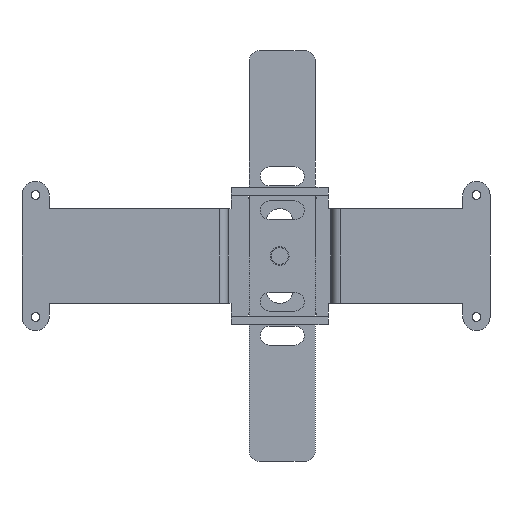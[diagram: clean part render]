
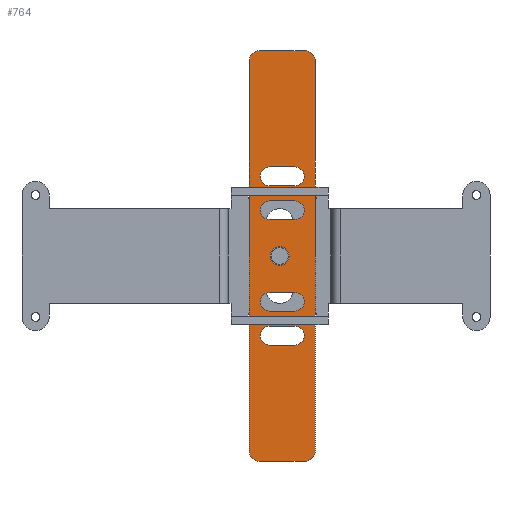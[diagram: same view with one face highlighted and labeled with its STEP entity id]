
A CAD part, front view. The second image highlights one B-rep face of the part: STEP entity #764.
In plain terms, the highlighted planar face has unit normal (0, -1, 0) as drawn and (0, 0, 1) by its records, which use the part's own axes.
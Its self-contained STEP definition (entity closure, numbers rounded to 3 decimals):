
#587=FACE_BOUND('',#1093,.T.);
#588=FACE_BOUND('',#1094,.T.);
#589=FACE_BOUND('',#1095,.T.);
#590=FACE_BOUND('',#1096,.T.);
#591=FACE_BOUND('',#1097,.T.);
#592=FACE_BOUND('',#1098,.T.);
#644=PLANE('',#3269);
#764=ADVANCED_FACE('',(#587,#588,#589,#590,#591,#592),#644,.T.);
#1093=EDGE_LOOP('',(#1843,#1844,#1845,#1846,#1847,#1848,#1849,#1850));
#1094=EDGE_LOOP('',(#1851,#1852));
#1095=EDGE_LOOP('',(#1853,#1854,#1855,#1856));
#1096=EDGE_LOOP('',(#1857,#1858,#1859,#1860));
#1097=EDGE_LOOP('',(#1861,#1862,#1863,#1864));
#1098=EDGE_LOOP('',(#1865,#1866,#1867,#1868));
#1231=CIRCLE('',#3253,2.75);
#1232=CIRCLE('',#3255,2.75);
#1233=CIRCLE('',#3257,3.);
#1234=CIRCLE('',#3258,3.);
#1235=CIRCLE('',#3259,3.);
#1236=CIRCLE('',#3260,3.);
#1237=CIRCLE('',#3261,2.75);
#1238=CIRCLE('',#3262,2.75);
#1239=CIRCLE('',#3263,2.75);
#1240=CIRCLE('',#3264,2.75);
#1241=CIRCLE('',#3265,2.75);
#1242=CIRCLE('',#3266,2.75);
#1243=CIRCLE('',#3267,2.75);
#1244=CIRCLE('',#3268,2.75);
#1843=ORIENTED_EDGE('',*,*,#2515,.T.);
#1844=ORIENTED_EDGE('',*,*,#2516,.T.);
#1845=ORIENTED_EDGE('',*,*,#2517,.T.);
#1846=ORIENTED_EDGE('',*,*,#2518,.T.);
#1847=ORIENTED_EDGE('',*,*,#2519,.T.);
#1848=ORIENTED_EDGE('',*,*,#2520,.T.);
#1849=ORIENTED_EDGE('',*,*,#2521,.T.);
#1850=ORIENTED_EDGE('',*,*,#2522,.T.);
#1851=ORIENTED_EDGE('',*,*,#2514,.T.);
#1852=ORIENTED_EDGE('',*,*,#2512,.T.);
#1853=ORIENTED_EDGE('',*,*,#2523,.T.);
#1854=ORIENTED_EDGE('',*,*,#2524,.T.);
#1855=ORIENTED_EDGE('',*,*,#2525,.T.);
#1856=ORIENTED_EDGE('',*,*,#2526,.T.);
#1857=ORIENTED_EDGE('',*,*,#2527,.T.);
#1858=ORIENTED_EDGE('',*,*,#2528,.T.);
#1859=ORIENTED_EDGE('',*,*,#2529,.T.);
#1860=ORIENTED_EDGE('',*,*,#2530,.T.);
#1861=ORIENTED_EDGE('',*,*,#2531,.T.);
#1862=ORIENTED_EDGE('',*,*,#2532,.T.);
#1863=ORIENTED_EDGE('',*,*,#2533,.T.);
#1864=ORIENTED_EDGE('',*,*,#2534,.T.);
#1865=ORIENTED_EDGE('',*,*,#2535,.T.);
#1866=ORIENTED_EDGE('',*,*,#2536,.T.);
#1867=ORIENTED_EDGE('',*,*,#2537,.T.);
#1868=ORIENTED_EDGE('',*,*,#2538,.T.);
#2177=VERTEX_POINT('',#4681);
#2178=VERTEX_POINT('',#4683);
#2179=VERTEX_POINT('',#4689);
#2180=VERTEX_POINT('',#4690);
#2181=VERTEX_POINT('',#4692);
#2182=VERTEX_POINT('',#4694);
#2183=VERTEX_POINT('',#4696);
#2184=VERTEX_POINT('',#4698);
#2185=VERTEX_POINT('',#4700);
#2186=VERTEX_POINT('',#4702);
#2187=VERTEX_POINT('',#4705);
#2188=VERTEX_POINT('',#4706);
#2189=VERTEX_POINT('',#4708);
#2190=VERTEX_POINT('',#4710);
#2191=VERTEX_POINT('',#4713);
#2192=VERTEX_POINT('',#4714);
#2193=VERTEX_POINT('',#4716);
#2194=VERTEX_POINT('',#4718);
#2195=VERTEX_POINT('',#4721);
#2196=VERTEX_POINT('',#4722);
#2197=VERTEX_POINT('',#4724);
#2198=VERTEX_POINT('',#4726);
#2199=VERTEX_POINT('',#4729);
#2200=VERTEX_POINT('',#4730);
#2201=VERTEX_POINT('',#4732);
#2202=VERTEX_POINT('',#4734);
#2512=EDGE_CURVE('',#2178,#2177,#1231,.T.);
#2514=EDGE_CURVE('',#2177,#2178,#1232,.T.);
#2515=EDGE_CURVE('',#2179,#2180,#2765,.T.);
#2516=EDGE_CURVE('',#2180,#2181,#1233,.T.);
#2517=EDGE_CURVE('',#2181,#2182,#2766,.T.);
#2518=EDGE_CURVE('',#2182,#2183,#1234,.T.);
#2519=EDGE_CURVE('',#2183,#2184,#2767,.T.);
#2520=EDGE_CURVE('',#2184,#2185,#1235,.T.);
#2521=EDGE_CURVE('',#2185,#2186,#2768,.T.);
#2522=EDGE_CURVE('',#2186,#2179,#1236,.T.);
#2523=EDGE_CURVE('',#2187,#2188,#1237,.T.);
#2524=EDGE_CURVE('',#2188,#2189,#2769,.T.);
#2525=EDGE_CURVE('',#2189,#2190,#1238,.T.);
#2526=EDGE_CURVE('',#2190,#2187,#2770,.T.);
#2527=EDGE_CURVE('',#2191,#2192,#1239,.T.);
#2528=EDGE_CURVE('',#2192,#2193,#2771,.T.);
#2529=EDGE_CURVE('',#2193,#2194,#1240,.T.);
#2530=EDGE_CURVE('',#2194,#2191,#2772,.T.);
#2531=EDGE_CURVE('',#2195,#2196,#1241,.T.);
#2532=EDGE_CURVE('',#2196,#2197,#2773,.T.);
#2533=EDGE_CURVE('',#2197,#2198,#1242,.T.);
#2534=EDGE_CURVE('',#2198,#2195,#2774,.T.);
#2535=EDGE_CURVE('',#2199,#2200,#2775,.T.);
#2536=EDGE_CURVE('',#2200,#2201,#1243,.T.);
#2537=EDGE_CURVE('',#2201,#2202,#2776,.T.);
#2538=EDGE_CURVE('',#2202,#2199,#1244,.T.);
#2765=LINE('',#4688,#3003);
#2766=LINE('',#4693,#3004);
#2767=LINE('',#4697,#3005);
#2768=LINE('',#4701,#3006);
#2769=LINE('',#4707,#3007);
#2770=LINE('',#4711,#3008);
#2771=LINE('',#4715,#3009);
#2772=LINE('',#4719,#3010);
#2773=LINE('',#4723,#3011);
#2774=LINE('',#4727,#3012);
#2775=LINE('',#4728,#3013);
#2776=LINE('',#4733,#3014);
#3003=VECTOR('',#3936,1.);
#3004=VECTOR('',#3939,1.);
#3005=VECTOR('',#3942,1.);
#3006=VECTOR('',#3945,1.);
#3007=VECTOR('',#3950,1.);
#3008=VECTOR('',#3953,1.);
#3009=VECTOR('',#3956,1.);
#3010=VECTOR('',#3959,1.);
#3011=VECTOR('',#3962,1.);
#3012=VECTOR('',#3965,1.);
#3013=VECTOR('',#3966,1.);
#3014=VECTOR('',#3969,1.);
#3253=AXIS2_PLACEMENT_3D('',#4682,#3927,#3928);
#3255=AXIS2_PLACEMENT_3D('',#4686,#3932,#3933);
#3257=AXIS2_PLACEMENT_3D('',#4691,#3937,#3938);
#3258=AXIS2_PLACEMENT_3D('',#4695,#3940,#3941);
#3259=AXIS2_PLACEMENT_3D('',#4699,#3943,#3944);
#3260=AXIS2_PLACEMENT_3D('',#4703,#3946,#3947);
#3261=AXIS2_PLACEMENT_3D('',#4704,#3948,#3949);
#3262=AXIS2_PLACEMENT_3D('',#4709,#3951,#3952);
#3263=AXIS2_PLACEMENT_3D('',#4712,#3954,#3955);
#3264=AXIS2_PLACEMENT_3D('',#4717,#3957,#3958);
#3265=AXIS2_PLACEMENT_3D('',#4720,#3960,#3961);
#3266=AXIS2_PLACEMENT_3D('',#4725,#3963,#3964);
#3267=AXIS2_PLACEMENT_3D('',#4731,#3967,#3968);
#3268=AXIS2_PLACEMENT_3D('',#4735,#3970,#3971);
#3269=AXIS2_PLACEMENT_3D('',#4736,#3972,#3973);
#3927=DIRECTION('',(0.,0.,-1.));
#3928=DIRECTION('',(1.,0.,0.));
#3932=DIRECTION('',(0.,0.,-1.));
#3933=DIRECTION('',(-1.,0.,0.));
#3936=DIRECTION('',(0.,1.,0.));
#3937=DIRECTION('',(0.,0.,1.));
#3938=DIRECTION('',(1.,0.,0.));
#3939=DIRECTION('',(-1.,0.,0.));
#3940=DIRECTION('',(0.,0.,1.));
#3941=DIRECTION('',(0.,1.,0.));
#3942=DIRECTION('',(0.,-1.,0.));
#3943=DIRECTION('',(0.,0.,1.));
#3944=DIRECTION('',(-1.,0.,0.));
#3945=DIRECTION('',(1.,0.,0.));
#3946=DIRECTION('',(0.,0.,1.));
#3947=DIRECTION('',(0.,-1.,0.));
#3948=DIRECTION('',(0.,0.,-1.));
#3949=DIRECTION('',(0.,1.,0.));
#3950=DIRECTION('',(-1.,0.,0.));
#3951=DIRECTION('',(0.,0.,-1.));
#3952=DIRECTION('',(0.,-1.,0.));
#3953=DIRECTION('',(1.,0.,0.));
#3954=DIRECTION('',(0.,0.,-1.));
#3955=DIRECTION('',(0.,1.,0.));
#3956=DIRECTION('',(-1.,0.,0.));
#3957=DIRECTION('',(0.,0.,-1.));
#3958=DIRECTION('',(0.,-1.,0.));
#3959=DIRECTION('',(1.,0.,0.));
#3960=DIRECTION('',(0.,0.,-1.));
#3961=DIRECTION('',(0.,1.,0.));
#3962=DIRECTION('',(-1.,0.,0.));
#3963=DIRECTION('',(0.,0.,-1.));
#3964=DIRECTION('',(0.,-1.,0.));
#3965=DIRECTION('',(1.,0.,0.));
#3966=DIRECTION('',(1.,0.,0.));
#3967=DIRECTION('',(0.,0.,-1.));
#3968=DIRECTION('',(0.,1.,0.));
#3969=DIRECTION('',(-1.,0.,0.));
#3970=DIRECTION('',(0.,0.,-1.));
#3971=DIRECTION('',(0.,-1.,0.));
#3972=DIRECTION('',(0.,0.,1.));
#3973=DIRECTION('',(-1.,0.,0.));
#4681=CARTESIAN_POINT('',(6.25,60.5,2.3));
#4682=CARTESIAN_POINT('',(9.,60.5,2.3));
#4683=CARTESIAN_POINT('',(11.75,60.5,2.3));
#4686=CARTESIAN_POINT('',(9.,60.5,2.3));
#4688=CARTESIAN_POINT('',(19.5,3.,2.3));
#4689=CARTESIAN_POINT('',(19.5,3.,2.3));
#4690=CARTESIAN_POINT('',(19.5,118.,2.3));
#4691=CARTESIAN_POINT('',(16.5,118.,2.3));
#4692=CARTESIAN_POINT('',(16.5,121.,2.3));
#4693=CARTESIAN_POINT('',(15.,121.,2.3));
#4694=CARTESIAN_POINT('',(3.,121.,2.3));
#4695=CARTESIAN_POINT('',(3.,118.,2.3));
#4696=CARTESIAN_POINT('',(0.,118.,2.3));
#4697=CARTESIAN_POINT('',(0.,118.,2.3));
#4698=CARTESIAN_POINT('',(0.,3.,2.3));
#4699=CARTESIAN_POINT('',(3.,3.,2.3));
#4700=CARTESIAN_POINT('',(3.,0.,2.3));
#4701=CARTESIAN_POINT('',(3.,0.,2.3));
#4702=CARTESIAN_POINT('',(16.5,0.,2.3));
#4703=CARTESIAN_POINT('',(16.5,3.,2.3));
#4704=CARTESIAN_POINT('',(13.5,74.,2.3));
#4705=CARTESIAN_POINT('',(13.5,76.75,2.3));
#4706=CARTESIAN_POINT('',(13.5,71.25,2.3));
#4707=CARTESIAN_POINT('',(12.,71.25,2.3));
#4708=CARTESIAN_POINT('',(6.,71.25,2.3));
#4709=CARTESIAN_POINT('',(6.,74.,2.3));
#4710=CARTESIAN_POINT('',(6.,76.75,2.3));
#4711=CARTESIAN_POINT('',(6.,76.75,2.3));
#4712=CARTESIAN_POINT('',(13.5,47.,2.3));
#4713=CARTESIAN_POINT('',(13.5,49.75,2.3));
#4714=CARTESIAN_POINT('',(13.5,44.25,2.3));
#4715=CARTESIAN_POINT('',(12.,44.25,2.3));
#4716=CARTESIAN_POINT('',(6.,44.25,2.3));
#4717=CARTESIAN_POINT('',(6.,47.,2.3));
#4718=CARTESIAN_POINT('',(6.,49.75,2.3));
#4719=CARTESIAN_POINT('',(6.,49.75,2.3));
#4720=CARTESIAN_POINT('',(13.5,37.,2.3));
#4721=CARTESIAN_POINT('',(13.5,39.75,2.3));
#4722=CARTESIAN_POINT('',(13.5,34.25,2.3));
#4723=CARTESIAN_POINT('',(12.,34.25,2.3));
#4724=CARTESIAN_POINT('',(6.,34.25,2.3));
#4725=CARTESIAN_POINT('',(6.,37.,2.3));
#4726=CARTESIAN_POINT('',(6.,39.75,2.3));
#4727=CARTESIAN_POINT('',(6.,39.75,2.3));
#4728=CARTESIAN_POINT('',(6.,86.75,2.3));
#4729=CARTESIAN_POINT('',(6.,86.75,2.3));
#4730=CARTESIAN_POINT('',(13.5,86.75,2.3));
#4731=CARTESIAN_POINT('',(13.5,84.,2.3));
#4732=CARTESIAN_POINT('',(13.5,81.25,2.3));
#4733=CARTESIAN_POINT('',(12.,81.25,2.3));
#4734=CARTESIAN_POINT('',(6.,81.25,2.3));
#4735=CARTESIAN_POINT('',(6.,84.,2.3));
#4736=CARTESIAN_POINT('',(0.,0.,2.3));
